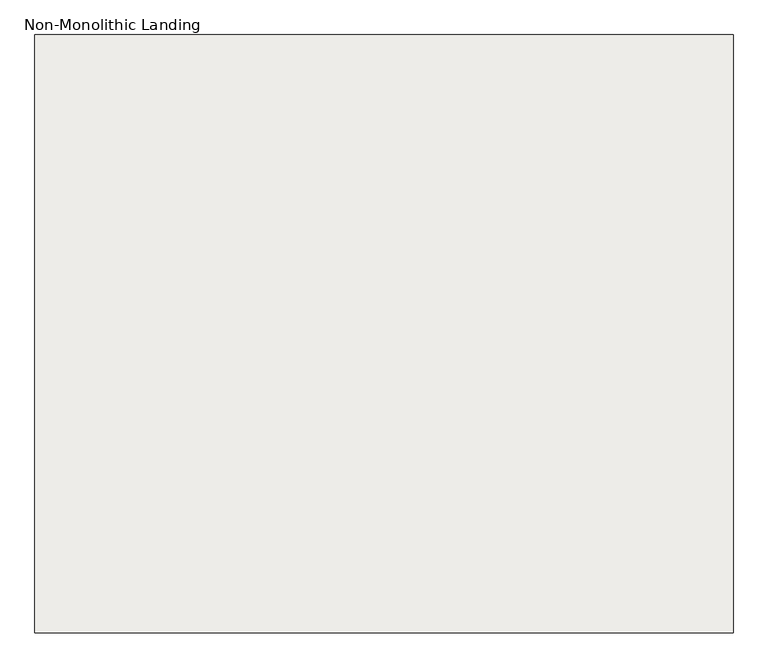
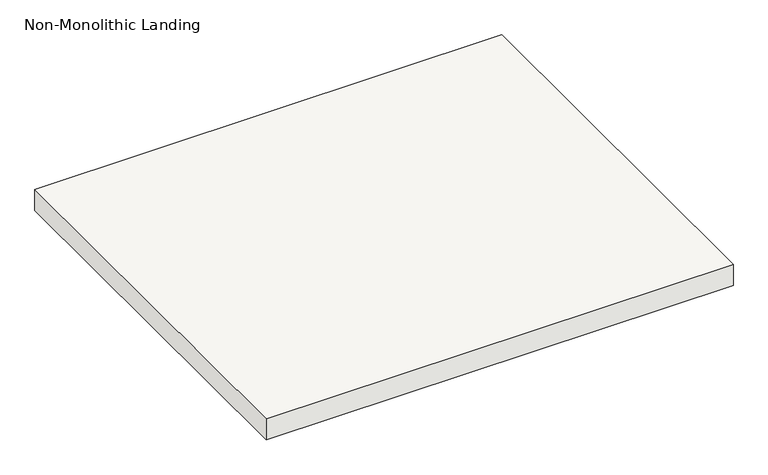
"""IFC4 building model written with IfcOpenShell, lengths in millimetres: slab geometry, Non-Monolithic Landing."""

import ifcopenshell
import ifcopenshell.guid

model = None  # the IFC model being written
_history = None  # IfcOwnerHistory: only IFC2X3 demands one
_inside = {}  # id of a spatial element -> (the spatial element, [elements in it])
_under = {}  # id of a project, library or spatial element -> (it, [spatial elements below it])
_declared = {}  # id of a project -> (the project, [libraries it declares])
_typed = {}  # id of a type object -> (the type object, [elements of that type])
_made_of = {}  # id of a material, layer set ... -> (it, [elements and type objects made of it])


def new_model(schema):
    """Start an empty IFC model of exactly this schema.

    Asked for "IFC4X3", IfcOpenShell would pick the latest addendum, in which some entities
    have other attributes; the version numbers below select the first issue.
    IFC2X3 requires an IfcOwnerHistory on every rooted entity: one is made here for all.
    """
    global model, _history
    if schema == "IFC4X3":
        model = ifcopenshell.file(schema_version=(4, 3, 0, 0))
    else:
        model = ifcopenshell.file(schema=schema)
    _inside.clear()
    _under.clear()
    _declared.clear()
    _typed.clear()
    _made_of.clear()
    _history = None
    if model.schema == "IFC2X3":
        org = make("IfcOrganization", Name="unknown")
        user = make(
            "IfcPersonAndOrganization",
            ThePerson=make("IfcPerson", FamilyName="unknown"),
            TheOrganization=org,
        )
        app = make(
            "IfcApplication",
            ApplicationDeveloper=org,
            Version="unknown",
            ApplicationFullName="unknown",
            ApplicationIdentifier="unknown",
        )
        _history = make(
            "IfcOwnerHistory",
            OwningUser=user,
            OwningApplication=app,
            ChangeAction="ADDED",
            CreationDate=0,
        )
    return model


def make(cls, **values):
    """One entity of the class cls with the attributes given. An attribute that is None is left unset."""
    return model.create_entity(
        cls, **{name: value for name, value in values.items() if value is not None}
    )


def rooted(cls, **values):
    """An entity with a GlobalId (a new one), such as an element, a storey or a relation."""
    return make(cls, GlobalId=ifcopenshell.guid.new(), OwnerHistory=_history, **values)


def si_unit(unit_type, name, prefix=None):
    """IfcSIUnit, for example si_unit("LENGTHUNIT", "METRE", prefix="MILLI")."""
    return make("IfcSIUnit", UnitType=unit_type, Prefix=prefix, Name=name)


def assignment(units):
    """IfcUnitAssignment: the units of a project."""
    return None if units is None else make("IfcUnitAssignment", Units=units)


def point(xyz):
    """IfcCartesianPoint."""
    return None if xyz is None else make("IfcCartesianPoint", Coordinates=xyz)


def direction(xyz):
    """IfcDirection."""
    return None if xyz is None else make("IfcDirection", DirectionRatios=xyz)


def frame(location, z_axis=None, x_axis=None):
    """IfcAxis2Placement3D, a coordinate frame: its origin and axes. An axis left out is left unset."""
    return make(
        "IfcAxis2Placement3D",
        Location=point(location),
        Axis=direction(z_axis),
        RefDirection=direction(x_axis),
    )


def origin():
    """The frame at (0, 0, 0) with its axes left unset."""
    return frame((0.0, 0.0, 0.0))


def place(relative_to, where):
    """IfcLocalPlacement: puts the frame where relative to a parent placement (None: the world)."""
    return make(
        "IfcLocalPlacement", PlacementRelTo=relative_to, RelativePlacement=where
    )


def context(
    kind, dimensions, precision=None, world=None, true_north=None, identifier=None
):
    """IfcGeometricRepresentationContext, for example the 3D "Model" context."""
    return make(
        "IfcGeometricRepresentationContext",
        ContextIdentifier=identifier,
        ContextType=kind,
        CoordinateSpaceDimension=dimensions,
        Precision=precision,
        WorldCoordinateSystem=world,
        TrueNorth=true_north,
    )


def project(units=None, contexts=None):
    """IfcProject with its units and contexts."""
    return rooted(
        "IfcProject",
        Name="project",
        RepresentationContexts=contexts,
        UnitsInContext=assignment(units),
    )


def spatial(cls, under=None, at=None, **own):
    """A site, building, storey or space (cls), placed at a placement, below another one or the project."""
    s = rooted(cls, ObjectPlacement=at, **own)
    if under is not None:
        _under.setdefault(under.id(), (under, []))[1].append(s)
    return s


def polyline(points):
    """IfcPolyline through the points."""
    return make("IfcPolyline", Points=[point(p) for p in points])


def outline(outer, holes=None, kind="AREA"):
    """IfcArbitraryClosedProfileDef: a profile drawn as a closed curve; with holes, ...WithVoids."""
    if holes is None:
        return make("IfcArbitraryClosedProfileDef", ProfileType=kind, OuterCurve=outer)
    return make(
        "IfcArbitraryProfileDefWithVoids",
        ProfileType=kind,
        OuterCurve=outer,
        InnerCurves=holes,
    )


def extrude(swept, where, along, depth):
    """IfcExtrudedAreaSolid: the profile swept, set in the frame where, extruded along a direction by depth."""
    return make(
        "IfcExtrudedAreaSolid",
        SweptArea=swept,
        Position=where,
        ExtrudedDirection=direction(along),
        Depth=depth,
    )


def shape(context_of_items, identifier, shape_type, items):
    """IfcShapeRepresentation: the items that make up one representation, for example the "Body"."""
    return make(
        "IfcShapeRepresentation",
        ContextOfItems=context_of_items,
        RepresentationIdentifier=identifier,
        RepresentationType=shape_type,
        Items=items,
    )


def source(mapping_origin, context_of_items, identifier, shape_type, items):
    """IfcRepresentationMap: a shape defined once, which mapped items show again and again."""
    return make(
        "IfcRepresentationMap",
        MappingOrigin=mapping_origin,
        MappedRepresentation=shape(context_of_items, identifier, shape_type, items),
    )


def transform(
    local_origin,
    x_axis=None,
    y_axis=None,
    z_axis=None,
    scale=None,
    scale2=None,
    scale3=None,
    uniform=True,
):
    """IfcCartesianTransformationOperator3D, or its non-uniform kind. x_axis, y_axis, z_axis: its Axis1, 2, 3."""
    if uniform:
        return make(
            "IfcCartesianTransformationOperator3D",
            Axis1=direction(x_axis),
            Axis2=direction(y_axis),
            LocalOrigin=point(local_origin),
            Scale=scale,
            Axis3=direction(z_axis),
        )
    return make(
        "IfcCartesianTransformationOperator3DnonUniform",
        Axis1=direction(x_axis),
        Axis2=direction(y_axis),
        LocalOrigin=point(local_origin),
        Scale=scale,
        Axis3=direction(z_axis),
        Scale2=scale2,
        Scale3=scale3,
    )


def mapped(mapping_source, mapping_target):
    """IfcMappedItem: shows the shape of a source again, moved by a transform."""
    return make(
        "IfcMappedItem", MappingSource=mapping_source, MappingTarget=mapping_target
    )


def made_of(thing, what):
    """Note that an element or type object is made of a material, layer set ...; save() writes the relation."""
    if what is not None:
        _made_of.setdefault(what.id(), (what, []))[1].append(thing)
    return thing


def element(
    cls,
    number,
    at=None,
    inside=None,
    cuts=None,
    type_object=None,
    material=None,
    context=None,
    identifier="Body",
    shape_type=None,
    held_by="IfcProductDefinitionShape",
    body=None,
    shapes=None,
    **own,
):
    """One element of the class cls, such as IfcWall. Its Tag is "e" and its number.

    at: its placement. inside: the storey or other place that contains it. cuts: it is an
    opening in that element (IfcRelVoidsElement). A single representation is given by context,
    identifier, shape_type and body (its items); several are given by shapes. held_by: the class
    of the entity that holds the representations. save() writes the other relations.
    """
    e = rooted(cls, Tag="e%d" % number, ObjectPlacement=at, **own)
    if body is not None:
        shapes = [shape(context, identifier, shape_type, body)]
    if shapes is not None:
        e.Representation = make(held_by, Representations=shapes)
    if inside is not None:
        _inside.setdefault(inside.id(), (inside, []))[1].append(e)
    if cuts is not None:
        rooted(
            "IfcRelVoidsElement", RelatingBuildingElement=cuts, RelatedOpeningElement=e
        )
    if type_object is not None:
        _typed.setdefault(type_object.id(), (type_object, []))[1].append(e)
    return made_of(e, material)


def aggregate(whole, parts):
    """IfcRelAggregates: a whole, such as a stair, and the parts it consists of."""
    return rooted("IfcRelAggregates", RelatingObject=whole, RelatedObjects=parts)


def save(model, path):
    """Write the relations noted so far, then the file.

    IfcRelAggregates (storeys below a building ...), IfcRelContainedInSpatialStructure (elements
    in a storey), IfcRelDefinesByType, IfcRelAssociatesMaterial and IfcRelDeclares: one each for
    every whole, place, type object, material and project.
    """
    for whole, parts in _under.values():
        aggregate(whole, parts)
    for where, things in _inside.values():
        rooted(
            "IfcRelContainedInSpatialStructure",
            RelatedElements=things,
            RelatingStructure=where,
        )
    for kind, things in _typed.values():
        rooted("IfcRelDefinesByType", RelatedObjects=things, RelatingType=kind)
    for what, things in _made_of.values():
        rooted("IfcRelAssociatesMaterial", RelatedObjects=things, RelatingMaterial=what)
    for by, libraries in _declared.values():
        rooted("IfcRelDeclares", RelatingContext=by, RelatedDefinitions=libraries)
    model.write(path)


def non_monolithic_landing_970f0ffe(model_context):
    return source(origin(), model_context, "Body", "SweptSolid", [
        extrude(outline(polyline([(138813.4288146, -34679.081782), (139880.2288146, -34679.081782), (139880.2288146, -35593.481782), (138813.4288146, -35593.481782), (138813.4288146, -34679.081782)])), frame((0.0, 0.0, 2195.0947368), z_axis=(0.0, 0.0, 1.0), x_axis=(1.0, 0.0, 0.0)), (0.0, 0.0, 1.0), 50.8),
    ])


if __name__ == "__main__":
    model = new_model("IFC4")
    model_context = context("Model", 3, world=origin())
    ifc_project = project(units=[si_unit("LENGTHUNIT", "METRE", prefix="MILLI")], contexts=[model_context])
    site = spatial("IfcSite", under=ifc_project)
    building = spatial("IfcBuilding", under=site)
    placement = place(None, origin())
    non_monolithic_landing_shape = non_monolithic_landing_970f0ffe(model_context)
    element("IfcSlab", 1, ObjectType="Non-Monolithic Landing", at=placement, inside=building, context=model_context, shape_type="MappedRepresentation", body=[
        mapped(non_monolithic_landing_shape, transform((0.0, 0.0, 0.0), x_axis=(1.0, 0.0, 0.0), y_axis=(0.0, 1.0, 0.0), z_axis=(0.0, 0.0, 1.0))),
    ])
    save(model, "model.ifc")
